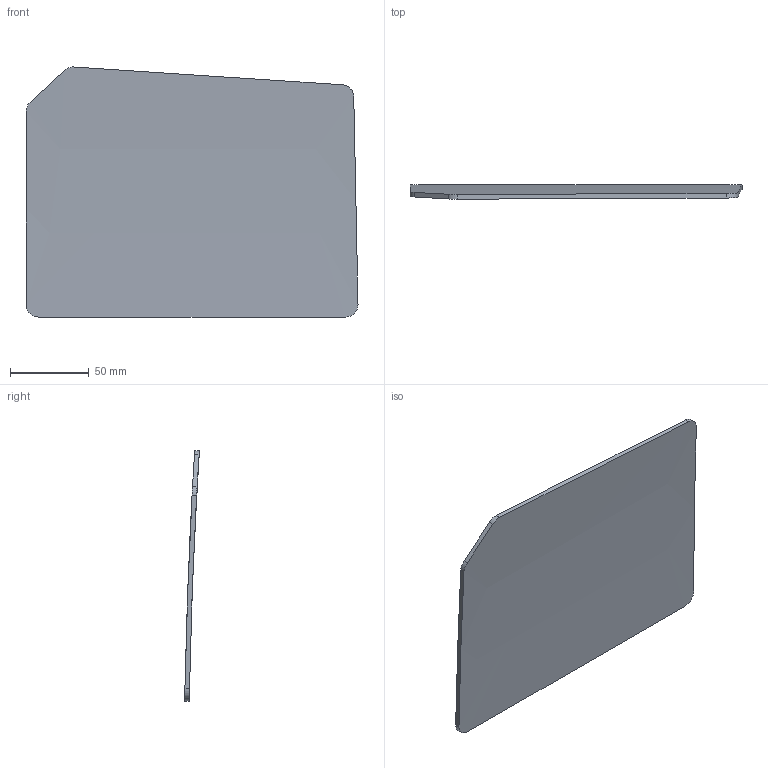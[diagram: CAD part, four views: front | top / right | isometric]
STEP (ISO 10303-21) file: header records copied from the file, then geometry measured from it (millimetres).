
FILE_DESCRIPTION(('Open CASCADE Model'),'2;1');
FILE_NAME('Open CASCADE Shape Model','2026-11-03T04:29:38',('Author'),( 'Open CASCADE'),'Open CASCADE STEP processor 7.8','Open CASCADE 7.8' ,'Unknown');
FILE_SCHEMA(('AUTOMOTIVE_DESIGN { 1 0 10303 214 1 1 1 1 }'));
Length unit declared in the file: millimetre
Products named in the file (1): Open CASCADE STEP translator 7.8 55
Bounding box: 210.83 x 9.4 x 158.77 mm (x, y, z)
Volume: 91760.9 mm3; surface area: 65755.2 mm2
Topology: 1 solids, 1 shells, 12 faces, 31 edges, 21 vertices
Faces by surface type: plane 5, cylinder 5, bspline 2
Entity records: 1260 total; most frequent: CARTESIAN_POINT 743, B_SPLINE_CURVE_WITH_KNOTS 63, ORIENTED_EDGE 62, PCURVE 62, DEFINITIONAL_REPRESENTATION 62, DIRECTION 52, EDGE_CURVE 31, SURFACE_CURVE 31
